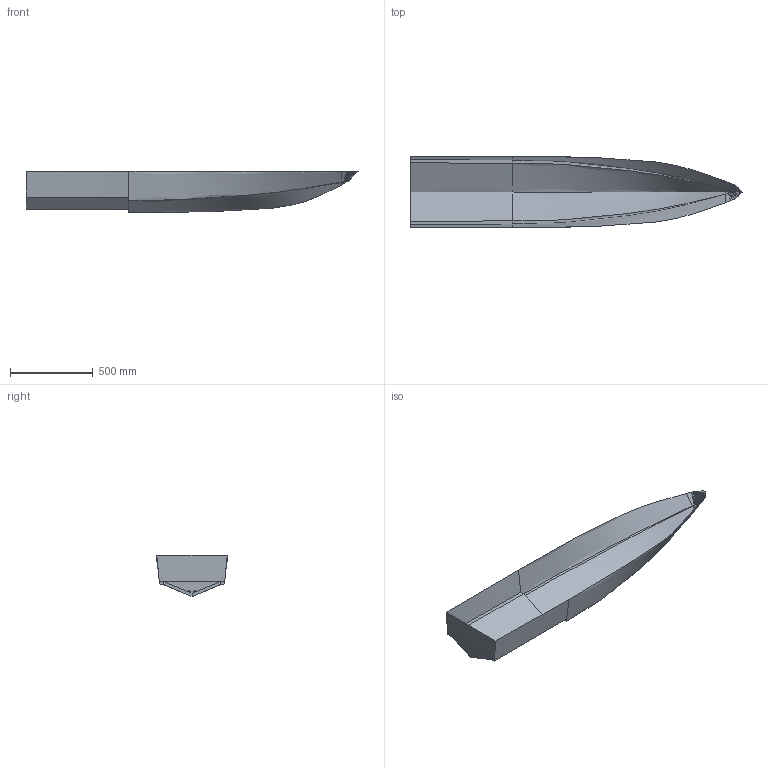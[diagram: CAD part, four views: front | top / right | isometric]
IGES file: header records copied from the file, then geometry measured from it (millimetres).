
Global section: file name: \\filestore.soton.ac.uk\users\djt2\mydocuments\Library\MyPublications\Journal\2011-IJSCT96-HSC Resistance\Models\HULL C1.igs; native system: Rhinoceros ( May 22 2017 ); preprocessor: Trout Lake IGES 012 May 22 2017; date: 180801.114623; units: millimetre
Bounding box: 2000.03 x 430.99 x 247.72 mm (x, y, z)
Surface area: 1351245.3 mm2 (no closed solid volume)
Topology: 0 solids, 0 shells, 52 faces, 2061 edges, 2133 vertices
Faces by surface type: bspline 52
